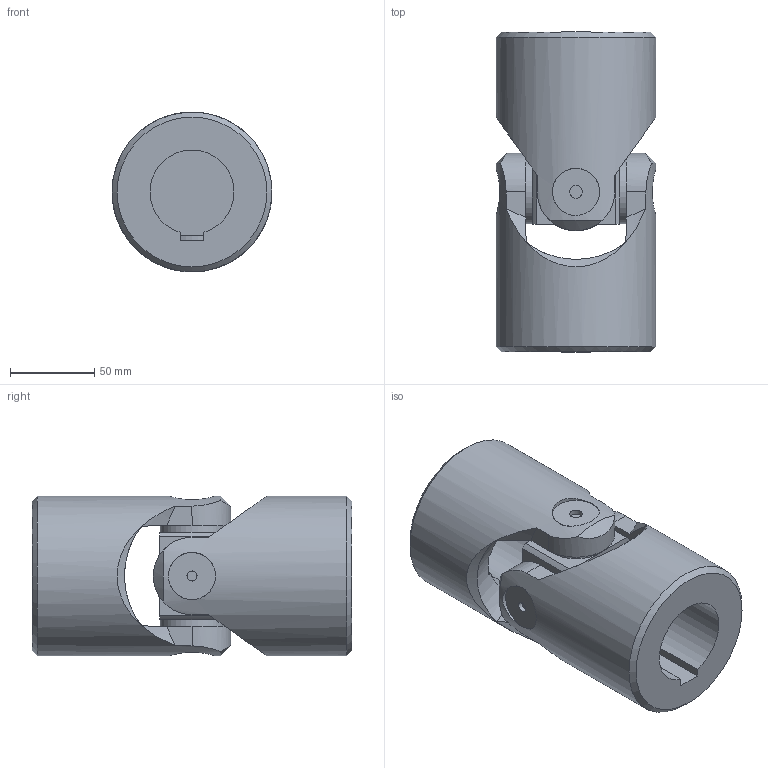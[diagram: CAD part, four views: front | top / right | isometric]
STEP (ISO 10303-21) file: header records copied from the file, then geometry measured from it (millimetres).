
FILE_DESCRIPTION(/* description */ ('EXTENSIBLE TRANSIMISSIONS Series G DIN 808 -2-'),/* implementation_level */ '2;1');
FILE_NAME(/* name */ '\\SRV2016\Societa\Stefano\Disegni 3D\Dis. Clienti\0000Catalogo 3D\01Singoli G-GB\9G-2C_SG0S502C.stp',/* time_stamp */ '2021-11-10T13:48:48+01:00',/* author */ ('acquisti'),/* organization */ ('MARIOFERRI'),/* preprocessor_version */ 'ST-DEVELOPER v15.6',/* originating_system */ 'Autodesk Inventor 2015',/* authorisation */ '');
FILE_SCHEMA (('AUTOMOTIVE_DESIGN { 1 0 10303 214 3 1 1 }'));
Length unit declared in the file: millimetre
Products named in the file (3): 9G SFE; 9G MOC; Assieme1
Assembly tree (3 placements, depth 2):
  Assieme1
    9G SFE
    9G MOC  x2
Bounding box: 95 x 190 x 95 mm (x, y, z)
Volume: 848893.4 mm3; surface area: 114122.1 mm2
Topology: 3 solids, 3 shells, 86 faces, 216 edges, 148 vertices
Faces by surface type: plane 42, cylinder 26, cone 16, torus 2
Full cylindrical faces by diameter (mm): 6 x2, 7.494 x2, 28 x4, 38 x4, 95 x2
Entity records: 1812 total; most frequent: CARTESIAN_POINT 601, DIRECTION 239, ORIENTED_EDGE 226, EDGE_CURVE 113, AXIS2_PLACEMENT_3D 101, VERTEX_POINT 83, EDGE_LOOP 72, FACE_OUTER_BOUND 52
